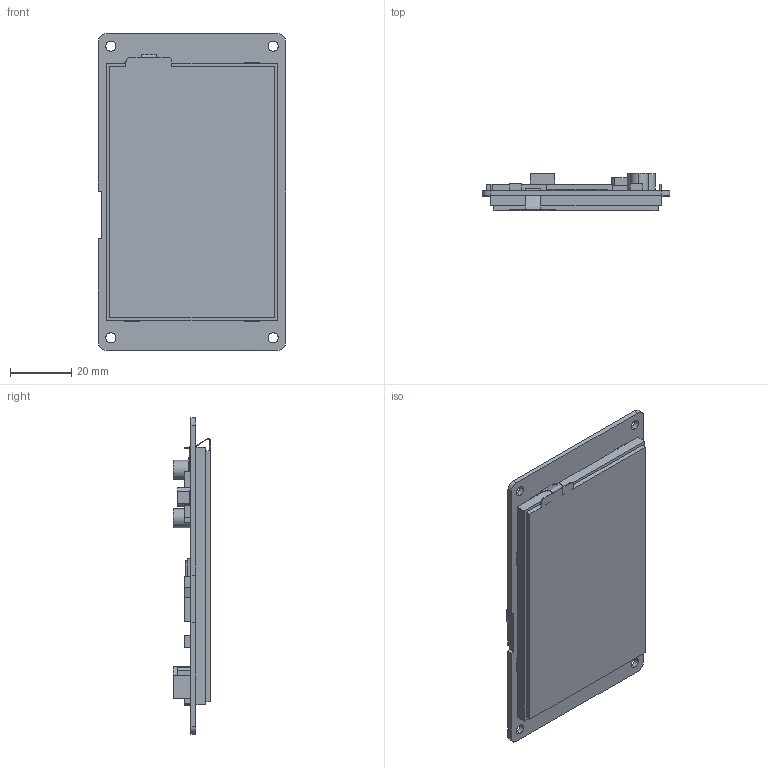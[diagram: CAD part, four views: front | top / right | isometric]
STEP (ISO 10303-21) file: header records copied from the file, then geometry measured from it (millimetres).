
FILE_DESCRIPTION((''),'2;1');
FILE_NAME('DMT48320C035-06WT','2018-07-28T',('Administrator'),(''),'PRO/ENGINEER BY PARAMETRIC TECHNOLOGY CORPORATION, 2008380','PRO/ENGINEER BY PARAMETRIC TECHNOLOGY CORPORATION, 2008380','');
FILE_SCHEMA(('CONFIG_CONTROL_DESIGN'));
Length unit declared in the file: millimetre
Products named in the file (1): DMT48320C035-06WT
Bounding box: 61.09 x 12.1 x 103.25 mm (x, y, z)
Volume: 33147.4 mm3; surface area: 24069.4 mm2
Topology: 1 solids, 2 shells, 233 faces, 649 edges, 427 vertices
Faces by surface type: plane 205, cylinder 24, extrusion 4
Entity records: 7721 total; most frequent: CARTESIAN_POINT 1493, ORIENTED_EDGE 1290, DIRECTION 1154, EDGE_CURVE 645, VECTOR 596, LINE 592, VERTEX_POINT 422, AXIS2_PLACEMENT_3D 279
